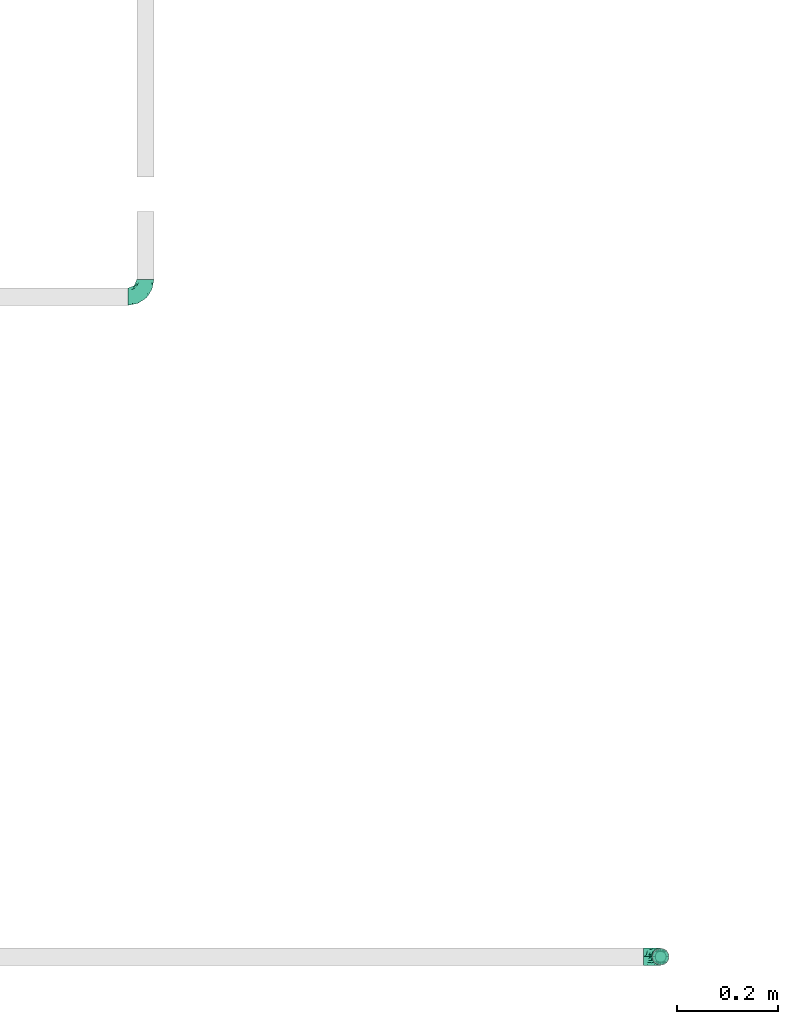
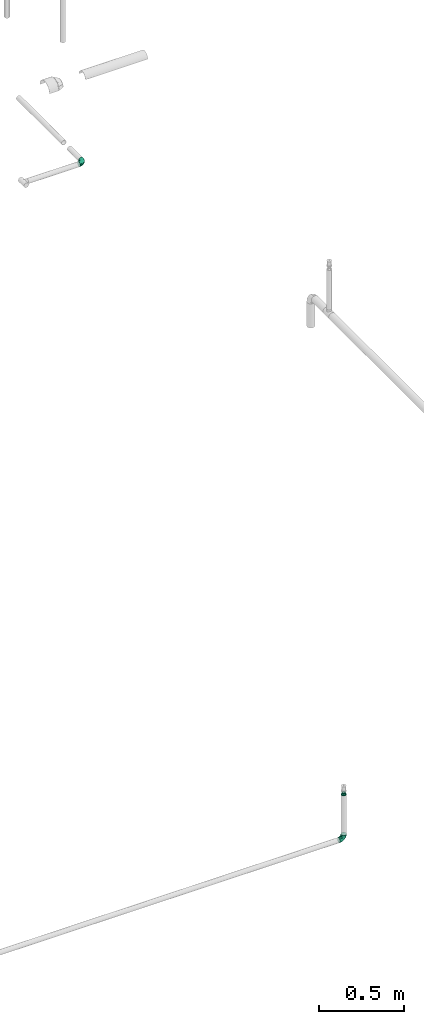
# One storey, part 37 of 63: 3 flow fittings.
"""IFC2X3 building model written with IfcOpenShell, lengths in millimetres."""

import ifcopenshell
import ifcopenshell.guid

model = None  # the IFC model being written
_history = None  # IfcOwnerHistory: only IFC2X3 demands one
_inside = {}  # id of a spatial element -> (the spatial element, [elements in it])
_under = {}  # id of a project, library or spatial element -> (it, [spatial elements below it])
_declared = {}  # id of a project -> (the project, [libraries it declares])
_typed = {}  # id of a type object -> (the type object, [elements of that type])
_made_of = {}  # id of a material, layer set ... -> (it, [elements and type objects made of it])


def new_model(schema):
    """Start an empty IFC model of exactly this schema.

    Asked for "IFC4X3", IfcOpenShell would pick the latest addendum, in which some entities
    have other attributes; the version numbers below select the first issue.
    IFC2X3 requires an IfcOwnerHistory on every rooted entity: one is made here for all.
    """
    global model, _history
    if schema == "IFC4X3":
        model = ifcopenshell.file(schema_version=(4, 3, 0, 0))
    else:
        model = ifcopenshell.file(schema=schema)
    _inside.clear()
    _under.clear()
    _declared.clear()
    _typed.clear()
    _made_of.clear()
    _history = None
    if model.schema == "IFC2X3":
        org = make("IfcOrganization", Name="unknown")
        user = make(
            "IfcPersonAndOrganization",
            ThePerson=make("IfcPerson", FamilyName="unknown"),
            TheOrganization=org,
        )
        app = make(
            "IfcApplication",
            ApplicationDeveloper=org,
            Version="unknown",
            ApplicationFullName="unknown",
            ApplicationIdentifier="unknown",
        )
        _history = make(
            "IfcOwnerHistory",
            OwningUser=user,
            OwningApplication=app,
            ChangeAction="ADDED",
            CreationDate=0,
        )
    return model


def make(cls, **values):
    """One entity of the class cls with the attributes given. An attribute that is None is left unset."""
    return model.create_entity(
        cls, **{name: value for name, value in values.items() if value is not None}
    )


def entity(cls, *values):
    """Any entity or typed value of the class cls, its attributes in the order of the schema. None: left unset."""
    e = model.create_entity(cls)
    for i, value in enumerate(values):
        if value is not None:
            e[i] = value
    return e


def rooted(cls, **values):
    """An entity with a GlobalId (a new one), such as an element, a storey or a relation."""
    return make(cls, GlobalId=ifcopenshell.guid.new(), OwnerHistory=_history, **values)


def si_unit(unit_type, name, prefix=None):
    """IfcSIUnit, for example si_unit("LENGTHUNIT", "METRE", prefix="MILLI")."""
    return make("IfcSIUnit", UnitType=unit_type, Prefix=prefix, Name=name)


def converted_unit(unit_type, name, factor, base, dimensions=None, offset=None):
    """IfcConversionBasedUnit, such as the inch: factor (a typed value) times the base unit."""
    return make(
        "IfcConversionBasedUnit"
        if offset is None
        else "IfcConversionBasedUnitWithOffset",
        ConversionOffset=offset,
        Dimensions=None
        if dimensions is None
        else entity("IfcDimensionalExponents", *dimensions),
        UnitType=unit_type,
        Name=name,
        ConversionFactor=make(
            "IfcMeasureWithUnit", ValueComponent=factor, UnitComponent=base
        ),
    )


def derived_unit(unit_type, elements):
    """IfcDerivedUnit: a product of units, each with its exponent."""
    return make(
        "IfcDerivedUnit",
        Elements=[
            make("IfcDerivedUnitElement", Unit=unit, Exponent=power)
            for unit, power in elements
        ],
        UnitType=unit_type,
    )


def assignment(units):
    """IfcUnitAssignment: the units of a project."""
    return None if units is None else make("IfcUnitAssignment", Units=units)


def point(xyz):
    """IfcCartesianPoint."""
    return None if xyz is None else make("IfcCartesianPoint", Coordinates=xyz)


def direction(xyz):
    """IfcDirection."""
    return None if xyz is None else make("IfcDirection", DirectionRatios=xyz)


def frame(location, z_axis=None, x_axis=None):
    """IfcAxis2Placement3D, a coordinate frame: its origin and axes. An axis left out is left unset."""
    return make(
        "IfcAxis2Placement3D",
        Location=point(location),
        Axis=direction(z_axis),
        RefDirection=direction(x_axis),
    )


def origin_with_axes():
    """The frame at (0, 0, 0) with the z axis (0, 0, 1) and the x axis (1, 0, 0) written out."""
    return frame((0.0, 0.0, 0.0), z_axis=(0.0, 0.0, 1.0), x_axis=(1.0, 0.0, 0.0))


def place(relative_to, where):
    """IfcLocalPlacement: puts the frame where relative to a parent placement (None: the world)."""
    return make(
        "IfcLocalPlacement", PlacementRelTo=relative_to, RelativePlacement=where
    )


def context(
    kind, dimensions, precision=None, world=None, true_north=None, identifier=None
):
    """IfcGeometricRepresentationContext, for example the 3D "Model" context."""
    return make(
        "IfcGeometricRepresentationContext",
        ContextIdentifier=identifier,
        ContextType=kind,
        CoordinateSpaceDimension=dimensions,
        Precision=precision,
        WorldCoordinateSystem=world,
        TrueNorth=true_north,
    )


def subcontext(parent, identifier, kind, view, scale=None):
    """IfcGeometricRepresentationSubContext, for example "Body" below "Model"."""
    return make(
        "IfcGeometricRepresentationSubContext",
        ContextIdentifier=identifier,
        ContextType=kind,
        ParentContext=parent,
        TargetScale=scale,
        TargetView=view,
    )


def project(units=None, contexts=None):
    """IfcProject with its units and contexts."""
    return rooted(
        "IfcProject",
        Name="project",
        RepresentationContexts=contexts,
        UnitsInContext=assignment(units),
    )


def spatial(cls, under=None, at=None, **own):
    """A site, building, storey or space (cls), placed at a placement, below another one or the project."""
    s = rooted(cls, ObjectPlacement=at, **own)
    if under is not None:
        _under.setdefault(under.id(), (under, []))[1].append(s)
    return s


def faces_of(points, faces, orient=None, outer=None):
    """IfcFace entities. A face is a list of loops; a loop is a list of indices into points, from 0.

    orient and outer hold one flag for each loop. By default every Orientation is true, the
    first loop of a face is its IfcFaceOuterBound and the others are IfcFaceBound.
    """
    made = []
    for i, loops in enumerate(faces):
        bounds = []
        for j, loop in enumerate(loops):
            is_outer = j == 0 if outer is None else outer[i][j]
            bounds.append(
                make(
                    "IfcFaceOuterBound" if is_outer else "IfcFaceBound",
                    Bound=make("IfcPolyLoop", Polygon=[points[k] for k in loop]),
                    Orientation=True if orient is None else orient[i][j],
                )
            )
        made.append(make("IfcFace", Bounds=bounds))
    return made


def open_shell(faces, orient=None, outer=None):
    """The faces of one IfcOpenShell. surface_model builds it on its shared points."""
    return ("IfcOpenShell", faces, orient, outer)


def surface_model(cls, points, shells):
    """IfcFaceBasedSurfaceModel or IfcShellBasedSurfaceModel (cls): surfaces that need not close."""
    shared = [point(p) for p in points]
    made = [make(c, CfsFaces=faces_of(shared, fs, o, b)) for c, fs, o, b in shells]
    if cls == "IfcFaceBasedSurfaceModel":
        return make(cls, FbsmFaces=made)
    return make(cls, SbsmBoundary=made)


def shape(context_of_items, identifier, shape_type, items):
    """IfcShapeRepresentation: the items that make up one representation, for example the "Body"."""
    return make(
        "IfcShapeRepresentation",
        ContextOfItems=context_of_items,
        RepresentationIdentifier=identifier,
        RepresentationType=shape_type,
        Items=items,
    )


def source(mapping_origin, context_of_items, identifier, shape_type, items):
    """IfcRepresentationMap: a shape defined once, which mapped items show again and again."""
    return make(
        "IfcRepresentationMap",
        MappingOrigin=mapping_origin,
        MappedRepresentation=shape(context_of_items, identifier, shape_type, items),
    )


def transform(
    local_origin,
    x_axis=None,
    y_axis=None,
    z_axis=None,
    scale=None,
    scale2=None,
    scale3=None,
    uniform=True,
):
    """IfcCartesianTransformationOperator3D, or its non-uniform kind. x_axis, y_axis, z_axis: its Axis1, 2, 3."""
    if uniform:
        return make(
            "IfcCartesianTransformationOperator3D",
            Axis1=direction(x_axis),
            Axis2=direction(y_axis),
            LocalOrigin=point(local_origin),
            Scale=scale,
            Axis3=direction(z_axis),
        )
    return make(
        "IfcCartesianTransformationOperator3DnonUniform",
        Axis1=direction(x_axis),
        Axis2=direction(y_axis),
        LocalOrigin=point(local_origin),
        Scale=scale,
        Axis3=direction(z_axis),
        Scale2=scale2,
        Scale3=scale3,
    )


def mapped(mapping_source, mapping_target):
    """IfcMappedItem: shows the shape of a source again, moved by a transform."""
    return make(
        "IfcMappedItem", MappingSource=mapping_source, MappingTarget=mapping_target
    )


def made_of(thing, what):
    """Note that an element or type object is made of a material, layer set ...; save() writes the relation."""
    if what is not None:
        _made_of.setdefault(what.id(), (what, []))[1].append(thing)
    return thing


def type_object(cls, material=None, **own):
    """A type object (cls), such as IfcWallType, which elements share."""
    return made_of(rooted(cls, **own), material)


def element(
    cls,
    number,
    at=None,
    inside=None,
    cuts=None,
    type_object=None,
    material=None,
    context=None,
    identifier="Body",
    shape_type=None,
    held_by="IfcProductDefinitionShape",
    body=None,
    shapes=None,
    **own,
):
    """One element of the class cls, such as IfcWall. Its Tag is "e" and its number.

    at: its placement. inside: the storey or other place that contains it. cuts: it is an
    opening in that element (IfcRelVoidsElement). A single representation is given by context,
    identifier, shape_type and body (its items); several are given by shapes. held_by: the class
    of the entity that holds the representations. save() writes the other relations.
    """
    e = rooted(cls, Tag="e%d" % number, ObjectPlacement=at, **own)
    if body is not None:
        shapes = [shape(context, identifier, shape_type, body)]
    if shapes is not None:
        e.Representation = make(held_by, Representations=shapes)
    if inside is not None:
        _inside.setdefault(inside.id(), (inside, []))[1].append(e)
    if cuts is not None:
        rooted(
            "IfcRelVoidsElement", RelatingBuildingElement=cuts, RelatedOpeningElement=e
        )
    if type_object is not None:
        _typed.setdefault(type_object.id(), (type_object, []))[1].append(e)
    return made_of(e, material)


def aggregate(whole, parts):
    """IfcRelAggregates: a whole, such as a stair, and the parts it consists of."""
    return rooted("IfcRelAggregates", RelatingObject=whole, RelatedObjects=parts)


def save(model, path):
    """Write the relations noted so far, then the file.

    IfcRelAggregates (storeys below a building ...), IfcRelContainedInSpatialStructure (elements
    in a storey), IfcRelDefinesByType, IfcRelAssociatesMaterial and IfcRelDeclares: one each for
    every whole, place, type object, material and project.
    """
    for whole, parts in _under.values():
        aggregate(whole, parts)
    for where, things in _inside.values():
        rooted(
            "IfcRelContainedInSpatialStructure",
            RelatedElements=things,
            RelatingStructure=where,
        )
    for kind, things in _typed.values():
        rooted("IfcRelDefinesByType", RelatedObjects=things, RelatingType=kind)
    for what, things in _made_of.values():
        rooted("IfcRelAssociatesMaterial", RelatedObjects=things, RelatingMaterial=what)
    for by, libraries in _declared.values():
        rooted("IfcRelDeclares", RelatingContext=by, RelatedDefinitions=libraries)
    model.write(path)


model = new_model("IFC2X3")

# Units and contexts
model_context = context("Model", 3, precision=0.01, world=frame((0.0, 4.29681676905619e-09, 0.0)), true_north=direction((4.01073788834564e-13, 1.0)))
plan_context = context("Plan", 3, precision=0.01, world=frame((0.0, 4.29681676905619e-09, 0.0)), true_north=direction((4.01073788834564e-13, 1.0)))
body_context = subcontext(model_context, "Body", "Model", "MODEL_VIEW")
ifc_project = project(units=[converted_unit("PLANEANGLEUNIT", "DEGREE", entity("IfcPositiveLengthMeasure", 0.0174532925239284), si_unit("PLANEANGLEUNIT", "RADIAN"), dimensions=[0, 0, 0, 0, 0, 0, 0]), si_unit("AREAUNIT", "SQUARE_METRE"), si_unit("LENGTHUNIT", "METRE", prefix="MILLI"), si_unit("MASSUNIT", "GRAM", prefix="KILO"), si_unit("POWERUNIT", "WATT"), si_unit("PRESSUREUNIT", "PASCAL", prefix="KILO"), si_unit("FORCEUNIT", "NEWTON", prefix="KILO"), si_unit("ELECTRICVOLTAGEUNIT", "VOLT"), si_unit("ELECTRICCURRENTUNIT", "AMPERE"), si_unit("THERMODYNAMICTEMPERATUREUNIT", "DEGREE_CELSIUS"), si_unit("TIMEUNIT", "SECOND"), si_unit("VOLUMEUNIT", "CUBIC_METRE"), derived_unit("LINEARVELOCITYUNIT", [(si_unit("LENGTHUNIT", "METRE"), 1), (si_unit("TIMEUNIT", "SECOND"), -1)]), derived_unit("VOLUMETRICFLOWRATEUNIT", [(si_unit("VOLUMEUNIT", "CUBIC_METRE"), 1), (si_unit("TIMEUNIT", "SECOND"), -1)]), derived_unit("THERMALTRANSMITTANCEUNIT", [(si_unit("POWERUNIT", "WATT"), 1), (si_unit("THERMODYNAMICTEMPERATUREUNIT", "KELVIN"), -1), (si_unit("AREAUNIT", "SQUARE_METRE"), -1)]), derived_unit("SOUNDPRESSUREUNIT", [(si_unit("PRESSUREUNIT", "PASCAL"), 1)])], contexts=[model_context, plan_context])

# Site, building, storey
site_placement = place(None, frame((0.0, -4.29681676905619e-09, 0.0), z_axis=(0.0, 0.0, 1.0), x_axis=(1.0, 0.0, 0.0)))
site = spatial("IfcSite", under=ifc_project, at=site_placement, CompositionType="ELEMENT")
building_placement = place(site_placement, frame((0.0, 4.29681676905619e-09, 0.0), z_axis=(0.0, 0.0, 1.0), x_axis=(1.0, 0.0, 0.0)))
building = spatial("IfcBuilding", under=site, at=building_placement, Name="mc-building", CompositionType="ELEMENT")
storey_placement = place(building_placement, frame((0.0, 0.0, 207370.0), z_axis=(0.0, 0.0, 1.0), x_axis=(1.0, 0.0, 0.0)))
storey = spatial("IfcBuildingStorey", under=building, at=storey_placement, Name="Nivå E", CompositionType="ELEMENT", Elevation=207370.0)

# Flow fittings
pipe_fitting_type_1 = type_object("IfcPipeFittingType", Name="magi_pipe_fe_reducer_centric_short_NOR", PredefinedType="TRANSITION")
shared_shape_1 = source(origin_with_axes(), body_context, "Body", "SurfaceModel", [
    surface_model("IfcShellBasedSurfaceModel", [(14.4, 5.35, -9.26647), (14.4, 0.0, -10.7), (14.4, 2.76936, -10.33541), (14.4, 10.33541, -2.76936), (14.4, 7.56604, -7.56604), (14.4, -10.33541, -2.76936), (14.4, 9.26647, -5.35), (14.4, 0.0, 10.7), (14.4, -5.35, -9.26647), (14.4, -2.76936, -10.33541), (14.4, -7.56604, -7.56604), (14.4, -9.26647, -5.35), (14.4, 10.7, 0.0), (14.4, 10.33541, 2.76936), (14.4, 9.26647, 5.35), (14.4, 7.56604, 7.56604), (14.4, 2.76936, 10.33541), (14.4, 5.35, 9.26647), (14.4, -10.33541, 2.76936), (14.4, -7.56604, 7.56604), (14.4, -9.26647, 5.35), (14.4, -10.7, 0.0), (14.4, -2.76936, 10.33541), (14.4, -5.35, 9.26647), (12.4, 2.76936, 10.33541), (12.4, -10.33541, -2.76936), (12.4, 0.0, 10.7), (12.4, 5.35, 9.26647), (12.4, 7.56604, 7.56604), (12.4, 9.26647, 5.35), (12.4, 10.33541, 2.76936), (12.4, -10.33541, 2.76936), (12.4, -2.76936, 10.33541), (12.4, -7.56604, 7.56604), (12.4, -5.35, 9.26647), (12.4, -9.26647, 5.35), (12.4, -10.7, 0.0), (12.4, 10.33541, -2.76936), (12.4, 5.35, -9.26647), (12.4, 9.26647, -5.35), (12.4, 7.56604, -7.56604), (12.4, 2.76936, -10.33541), (12.4, -9.26647, -5.35), (12.4, -5.35, -9.26647), (12.4, -7.56604, -7.56604), (12.4, 0.0, -10.7), (12.4, -2.76936, -10.33541), (12.4, 10.7, 0.0), (-2.0, 11.9501, 11.9501), (-2.0, 0.0, 16.9), (-2.0, 4.37404, 16.32415), (-2.0, 8.45, 14.63583), (-2.0, 14.63583, 8.45), (-2.0, 16.32415, 4.37404), (-2.0, -16.32415, 4.37404), (-2.0, -8.45, 14.63583), (-2.0, -14.63583, 8.45), (-2.0, -11.9501, 11.9501), (-2.0, -4.37404, 16.32415), (-2.0, -16.32415, -4.37404), (-2.0, -16.9, 0.0), (-2.0, -8.45, -14.63583), (-2.0, 16.32415, -4.37404), (-2.0, 11.9501, -11.9501), (-2.0, 14.63583, -8.45), (-2.0, 8.45, -14.63583), (-2.0, 4.37404, -16.32415), (-2.0, 0.0, -16.9), (-2.0, -11.9501, -11.9501), (-2.0, -14.63583, -8.45), (-2.0, -4.37404, -16.32415), (-2.0, 16.9, 0.0), (0.0, 4.37404, -16.32415), (0.0, 8.45, -14.63583), (0.0, 11.9501, -11.9501), (0.0, 0.0, -16.9), (0.0, 16.32415, -4.37404), (0.0, 16.32415, 4.37404), (0.0, 14.63583, -8.45), (0.0, -8.45, -14.63583), (0.0, -4.37404, -16.32415), (0.0, -11.9501, -11.9501), (0.0, -16.32415, -4.37404), (0.0, -14.63583, -8.45), (0.0, -16.32415, 4.37404), (0.0, 16.9, 0.0), (0.0, 14.63583, 8.45), (0.0, 11.9501, 11.9501), (0.0, 4.37404, 16.32415), (0.0, 8.45, 14.63583), (0.0, 0.0, 16.9), (0.0, -14.63583, 8.45), (0.0, -16.9, 0.0), (0.0, -8.45, 14.63583), (0.0, -11.9501, 11.9501), (0.0, -4.37404, 16.32415), (12.4, 9.3625, -2.31662), (0.0, 14.42505, -5.97505), (0.0, 15.66253, -2.98753), (12.4, -6.6875, -6.94985), (0.0, -13.18758, -8.96258), (0.0, 2.98753, -15.66253), (12.4, 0.0, -9.26647), (12.4, 6.6875, -6.94985), (0.0, 8.96258, -13.18758), (12.4, -9.3625, -2.31662), (0.0, -15.66253, -2.98753), (0.0, -14.42505, -5.97505), (0.0, 5.97505, -14.42505), (0.0, -2.98753, -15.66253), (0.0, -8.96258, -13.18758), (0.0, 13.18758, -8.96258), (12.4, 8.025, -4.63324), (12.4, -2.675, -9.26647), (12.4, 2.675, -9.26647), (0.0, -5.97505, -14.42505), (12.4, -8.025, -4.63324), (12.4, -9.3625, 2.31662), (0.0, -14.42505, 5.97505), (0.0, -15.66253, 2.98753), (12.4, 6.6875, 6.94985), (0.0, 13.18758, 8.96258), (0.0, -2.98753, 15.66253), (12.4, 0.0, 9.26647), (12.4, -6.6875, 6.94985), (0.0, -8.96258, 13.18758), (12.4, 9.3625, 2.31662), (0.0, 15.66253, 2.98753), (0.0, 14.42505, 5.97505), (0.0, -5.97505, 14.42505), (0.0, 2.98753, 15.66253), (0.0, 8.96258, 13.18758), (0.0, -13.18758, 8.96258), (12.4, -8.025, 4.63324), (12.4, 2.675, 9.26647), (12.4, -2.675, 9.26647), (0.0, 5.97505, 14.42505), (12.4, 8.025, 4.63324)], [open_shell([[[0, 1, 2]], [[3, 0, 4]], [[5, 0, 3]], [[3, 4, 6]], [[7, 5, 3]], [[1, 8, 9]], [[1, 0, 8]], [[10, 5, 11]], [[5, 10, 8]], [[0, 5, 8]], [[3, 12, 13]], [[13, 14, 15]], [[13, 15, 16]], [[7, 3, 16]], [[16, 15, 17]], [[7, 18, 5]], [[18, 19, 20]], [[21, 5, 18]], [[19, 22, 23]], [[22, 19, 18]], [[7, 22, 18]], [[13, 16, 3]], [[24, 25, 26]], [[27, 25, 24]], [[28, 29, 30]], [[28, 25, 27]], [[31, 26, 25]], [[32, 33, 34]], [[33, 32, 31]], [[33, 31, 35]], [[32, 26, 31]], [[31, 25, 36]], [[30, 37, 28]], [[25, 28, 37]], [[38, 37, 39]], [[37, 38, 25]], [[38, 39, 40]], [[41, 25, 38]], [[42, 43, 44]], [[43, 42, 25]], [[43, 45, 46]], [[43, 25, 41]], [[41, 45, 43]], [[37, 30, 47]], [[25, 5, 36]], [[42, 11, 25]], [[8, 44, 43]], [[42, 44, 10]], [[9, 43, 46]], [[25, 11, 5]], [[5, 21, 36]], [[9, 8, 43]], [[10, 44, 8]], [[10, 11, 42]], [[1, 9, 46]], [[46, 45, 1]], [[41, 2, 45]], [[38, 0, 41]], [[6, 40, 39]], [[38, 40, 4]], [[3, 39, 37]], [[38, 4, 0]], [[0, 2, 41]], [[12, 3, 37]], [[6, 39, 3]], [[6, 4, 40]], [[47, 12, 37]], [[45, 2, 1]], [[30, 13, 47]], [[29, 14, 30]], [[17, 28, 27]], [[29, 28, 15]], [[16, 27, 24]], [[30, 14, 13]], [[13, 12, 47]], [[16, 17, 27]], [[15, 28, 17]], [[15, 14, 29]], [[7, 16, 24]], [[24, 26, 7]], [[32, 22, 26]], [[34, 23, 32]], [[20, 33, 35]], [[34, 33, 19]], [[18, 35, 31]], [[34, 19, 23]], [[23, 22, 32]], [[21, 18, 31]], [[20, 35, 18]], [[20, 19, 33]], [[36, 21, 31]], [[26, 22, 7]], [[48, 49, 50]], [[48, 50, 51]], [[48, 52, 53]], [[48, 53, 49]], [[49, 53, 54]], [[55, 56, 57]], [[55, 58, 49]], [[56, 55, 49]], [[49, 54, 56]], [[54, 59, 60]], [[54, 53, 61]], [[53, 62, 63]], [[63, 62, 64]], [[63, 65, 66]], [[61, 53, 63]], [[67, 63, 66]], [[59, 68, 69]], [[68, 59, 61]], [[61, 67, 70]], [[59, 54, 61]], [[63, 67, 61]], [[53, 71, 62]], [[72, 73, 74]], [[75, 72, 74]], [[74, 76, 77]], [[76, 74, 78]], [[74, 77, 79]], [[75, 79, 80]], [[75, 74, 79]], [[81, 82, 83]], [[82, 81, 79]], [[79, 84, 82]], [[77, 76, 85]], [[77, 86, 87]], [[77, 87, 88]], [[88, 84, 79]], [[88, 87, 89]], [[84, 88, 90]], [[90, 91, 84]], [[92, 82, 84]], [[91, 93, 94]], [[91, 90, 93]], [[93, 90, 95]], [[79, 77, 88]], [[59, 82, 60]], [[69, 83, 59]], [[79, 68, 61]], [[69, 68, 81]], [[80, 61, 70]], [[59, 83, 82]], [[82, 92, 60]], [[80, 79, 61]], [[81, 68, 79]], [[81, 83, 69]], [[75, 80, 70]], [[70, 67, 75]], [[66, 72, 67]], [[65, 73, 66]], [[78, 63, 64]], [[65, 63, 74]], [[76, 64, 62]], [[65, 74, 73]], [[73, 72, 66]], [[85, 76, 62]], [[78, 64, 76]], [[78, 74, 63]], [[71, 85, 62]], [[67, 72, 75]], [[53, 77, 71]], [[52, 86, 53]], [[89, 48, 51]], [[52, 48, 87]], [[88, 51, 50]], [[53, 86, 77]], [[77, 85, 71]], [[88, 89, 51]], [[87, 48, 89]], [[87, 86, 52]], [[90, 88, 50]], [[50, 49, 90]], [[58, 95, 49]], [[55, 93, 58]], [[91, 57, 56]], [[55, 57, 94]], [[84, 56, 54]], [[55, 94, 93]], [[93, 95, 58]], [[92, 84, 54]], [[91, 56, 84]], [[91, 94, 57]], [[60, 92, 54]], [[49, 95, 90]], [[27, 34, 47]], [[47, 34, 43]], [[43, 38, 47]], [[43, 34, 36]], [[90, 87, 94]], [[92, 94, 87]], [[87, 74, 92]], [[75, 92, 74]], [[81, 92, 75]], [[74, 87, 85]], [[96, 97, 98]], [[81, 99, 100]], [[101, 102, 75]], [[98, 85, 47]], [[74, 103, 104]], [[104, 103, 38]], [[105, 106, 107]], [[38, 108, 104]], [[102, 109, 75]], [[110, 99, 81]], [[47, 96, 98]], [[103, 111, 112]], [[109, 102, 113]], [[36, 92, 106]], [[102, 101, 114]], [[110, 115, 43]], [[96, 112, 97]], [[107, 116, 105]], [[36, 106, 105]], [[113, 115, 109]], [[43, 115, 113]], [[116, 107, 100]], [[108, 38, 114]], [[111, 103, 74]], [[111, 97, 112]], [[99, 110, 43]], [[116, 100, 99]], [[101, 108, 114]], [[117, 118, 119]], [[87, 120, 121]], [[122, 123, 90]], [[119, 92, 36]], [[94, 124, 125]], [[125, 124, 34]], [[126, 127, 128]], [[34, 129, 125]], [[123, 130, 90]], [[131, 120, 87]], [[36, 117, 119]], [[124, 132, 133]], [[130, 123, 134]], [[47, 85, 127]], [[123, 122, 135]], [[131, 136, 27]], [[117, 133, 118]], [[128, 137, 126]], [[47, 127, 126]], [[134, 136, 130]], [[27, 136, 134]], [[137, 128, 121]], [[129, 34, 135]], [[132, 124, 94]], [[132, 118, 133]], [[120, 131, 27]], [[137, 121, 120]], [[122, 129, 135]]])]),
])
flow_fitting_placement = place(storey_placement, frame((726016.69316, 434695.91689, 3018.36794), z_axis=(0.0, -1.0, 0.0), x_axis=(0.0, 0.0, 1.0)))
element("IfcFlowFitting", 1, at=flow_fitting_placement, inside=storey, type_object=pipe_fitting_type_1, Name="magi_pipe_fe_reducer_centric_short_NOR", context=body_context, shape_type="MappedRepresentation", body=[
    mapped(shared_shape_1, transform((0.0, 0.0, 0.0), scale=1.0)),
])
pipe_fitting_type_2 = type_object("IfcPipeFittingType", Name="magi_pipe_fe_elbow_short_001", PredefinedType="BEND")
shared_shape_2 = source(origin_with_axes(), body_context, "Body", "SurfaceModel", [
    surface_model("IfcShellBasedSurfaceModel", [(-33.8, 8.45, -14.63583), (-33.8, 4.37404, -16.32415), (-33.8, 11.9501, -11.9501), (-33.8, -11.9501, -11.9501), (-33.8, -14.63583, -8.45), (-33.8, -8.45, -14.63583), (-33.8, 0.0, -16.9), (-33.8, -4.37404, -16.32415), (-33.8, -4.37404, 16.32415), (-33.8, 0.0, 16.9), (-33.8, -8.45, 14.63583), (-33.8, 16.32415, -4.37404), (-33.8, 14.63583, -8.45), (-33.8, -16.32415, -4.37404), (-33.8, -16.9, 0.0), (-33.8, -16.32415, 4.37404), (-33.8, 11.9501, 11.9501), (-33.8, 14.63583, 8.45), (-33.8, 16.32415, 4.37404), (-33.8, 4.37404, 16.32415), (-33.8, 8.45, 14.63583), (-33.8, -14.63583, 8.45), (-33.8, -11.9501, 11.9501), (-33.8, 16.9, 0.0), (-11.9501, 33.8, -11.9501), (0.0, 33.8, -16.9), (-4.37404, 33.8, -16.32415), (-8.45, 33.8, -14.63583), (-14.63583, 33.8, -8.45), (-16.32415, 33.8, -4.37404), (14.63583, 33.8, -8.45), (8.45, 33.8, 14.63583), (16.32415, 33.8, -4.37404), (8.45, 33.8, -14.63583), (11.9501, 33.8, -11.9501), (4.37404, 33.8, -16.32415), (16.32415, 33.8, 4.37404), (16.9, 33.8, 0.0), (-11.9501, 33.8, 11.9501), (-16.32415, 33.8, 4.37404), (-14.63583, 33.8, 8.45), (-8.45, 33.8, 14.63583), (-4.37404, 33.8, 16.32415), (11.9501, 33.8, 11.9501), (14.63583, 33.8, 8.45), (0.0, 33.8, 16.9), (4.37404, 33.8, 16.32415), (-16.9, 33.8, 0.0), (-24.79389, -13.12945, 9.48721), (-22.19287, -9.75018, 12.59315), (-24.09897, -14.97035, 0.0), (-14.93934, -10.76256, 8.5297), (-22.46095, -14.75051, 5.27077), (14.75051, 22.46094, 5.27077), (11.9251, 13.23888, 4.33236), (13.04069, 14.39795, 0.0), (7.71387, 13.68847, 11.55891), (9.75018, 22.19287, 12.59315), (4.10169, 13.0571, 14.04018), (-24.84007, -6.39063, 15.2048), (-25.81779, -2.23879, 16.61097), (-23.66549, 2.59054, 16.87119), (-26.50418, 14.06512, 11.08152), (-24.21253, 17.66365, 7.72657), (-29.58514, 15.86957, 7.00283), (-6.17382, -7.5455, 0.0), (-13.23888, -11.9251, 4.33236), (-14.39795, -13.04069, 0.0), (-17.81434, 18.87373, 11.97104), (-6.30846, 29.15138, 15.82987), (-2.31622, 25.28002, 16.85849), (-29.23923, 10.23435, 13.77053), (-1.45439, -2.85688, 7.61475), (-0.28326, 0.34872, 10.09509), (-5.74484, -4.04709, 10.4122), (-4.41137, 11.31918, 16.59407), (-8.39727, 3.10034, 15.7812), (-1.72649, 9.1306, 15.53089), (-17.39909, 24.75344, 7.64977), (-26.19233, 20.0512, 0.0), (-28.14518, 17.29657, 4.25857), (-26.05147, 6.6281, 15.96447), (-5.87354, 16.61944, 16.86968), (-12.51807, 12.51807, 16.48937), (-10.06312, 7.38516, 16.81295), (-3.01882, 3.01882, 13.81718), (-13.0571, -4.10169, 14.04018), (-16.82553, -0.15166, 16.38038), (10.76256, 14.93934, 8.5297), (13.12945, 24.79389, 9.48721), (6.39063, 24.84007, 15.2048), (2.23879, 25.81779, 16.61097), (-13.68847, -7.71387, 11.55891), (14.97035, 24.09897, 0.0), (-7.30894, 22.89991, 16.09489), (-10.67958, 26.17414, 14.008), (-12.78295, 18.26924, 15.06066), (-13.88562, 22.45231, 12.93244), (-18.04944, 15.16501, 14.04434), (-23.11658, 20.08178, 4.02986), (-21.84989, 21.84989, 0.0), (-18.55817, 25.48277, 3.93065), (-13.95142, 26.94732, 11.03289), (-18.57098, 7.23906, 16.59756), (-16.58335, 4.14122, 16.89279), (-17.96666, 11.46709, 15.63151), (-9.84453, 17.54304, 16.18938), (0.15166, 16.82553, 16.38038), (-23.27207, 11.47201, 14.23154), (3.84842, 5.86994, 10.70473), (-8.0212, -7.54413, 7.93275), (1.00345, -2.19508, 4.57414), (5.13203, 3.01004, 5.90201), (5.24161, 1.7543, 2.53265), (8.70457, 7.04947, 3.99182), (-20.0512, 26.19233, 0.0), (8.4852, 8.76699, 7.09296), (-4.55488, -6.72064, 4.90681), (2.05031, -2.05031, 0.0), (7.5455, 6.17382, 0.0), (-26.75399, 2.1369, -16.845), (-14.61995, 24.73803, -11.27736), (-28.45274, -13.45335, -9.81895), (-26.00469, 6.63555, -15.96645), (-23.06726, 20.04573, -4.26202), (-13.80647, -4.26506, -14.17873), (-14.67501, -0.21081, -16.07388), (-6.7902, -0.2828, -13.8478), (-24.53586, 11.08096, -14.13417), (-26.72048, 14.00837, -11.05776), (10.0967, 24.44989, -12.75976), (5.83237, 21.40218, -15.03047), (6.66249, 28.54238, -15.38093), (-20.38182, 15.48705, -12.74596), (12.53268, 21.23441, -9.15363), (12.54494, 15.67504, -5.54878), (9.7522, 12.89279, -8.66343), (-15.65186, 19.64213, -13.01327), (-12.03528, 20.66498, -14.67665), (-15.61907, 15.61906, -14.83879), (-25.56551, -15.26206, 0.0), (-24.65452, -15.12934, -5.50955), (13.45335, 28.45274, -9.81895), (15.12934, 24.65452, -5.50955), (-7.35442, -8.31014, -5.65563), (-15.67504, -12.54494, -5.54878), (-24.44989, -10.0967, -12.75976), (0.16522, 0.41303, -9.71728), (-5.70658, -5.33066, -8.89288), (-5.13869, -2.37198, -11.53565), (-21.23441, -12.53268, -9.15363), (0.71146, 7.93863, -14.09382), (0.21081, 14.67501, -16.07388), (3.49291, 14.42772, -14.76381), (-24.89911, -2.13088, -16.591), (-28.54238, -6.66249, -15.38093), (-18.44386, -7.71663, -13.26957), (2.13088, 24.89911, -16.591), (-28.64342, 17.44413, -2.89318), (1.70017, -1.28722, -5.09504), (-16.57067, 26.81947, -7.36596), (-17.69055, 27.4263, -3.76405), (-12.89279, -9.7522, -8.66343), (-5.96611, 5.96611, -15.95814), (-20.53709, 20.09345, -8.28985), (-2.1369, 26.75399, -16.845), (-6.89872, 24.58781, -16.02578), (-10.60739, 26.53157, -13.98044), (-21.40218, -5.83237, -15.03047), (2.93192, 5.89627, -11.55917), (6.89393, 12.61842, -11.82233), (5.58056, 5.95325, -8.79455), (-3.99512, 18.61798, -16.89635), (8.31014, 7.35442, -5.65563), (-9.1383, 9.86148, -16.89041), (-9.99983, 16.02119, -16.39699), (-16.68576, 9.78031, -16.34199), (-27.01915, 16.61158, -7.12979), (15.26206, 25.56551, 0.0), (-18.61798, 3.99512, -16.89635), (-19.37495, 27.82495, 0.0), (-12.61842, -6.89393, -11.82233), (-18.84705, 19.14018, -10.96545)], [open_shell([[[0, 1, 2]], [[3, 4, 5]], [[6, 7, 5]], [[8, 9, 10]], [[1, 6, 2]], [[11, 12, 2]], [[4, 2, 6]], [[2, 13, 10]], [[5, 4, 6]], [[2, 4, 13]], [[14, 15, 13]], [[11, 2, 16]], [[11, 17, 18]], [[11, 16, 17]], [[19, 20, 16]], [[16, 2, 10]], [[19, 16, 10]], [[21, 22, 15]], [[22, 13, 15]], [[22, 10, 13]], [[10, 9, 19]], [[11, 18, 23]], [[24, 25, 26]], [[24, 26, 27]], [[24, 28, 29]], [[25, 24, 30]], [[31, 32, 24]], [[33, 30, 34]], [[33, 35, 25]], [[25, 30, 33]], [[32, 30, 24]], [[32, 36, 37]], [[38, 24, 29]], [[39, 40, 29]], [[40, 38, 29]], [[38, 41, 42]], [[38, 31, 24]], [[31, 38, 42]], [[36, 43, 44]], [[36, 32, 43]], [[31, 45, 46]], [[32, 31, 43]], [[42, 45, 31]], [[39, 29, 47]], [[22, 48, 49]], [[15, 14, 50]], [[51, 48, 52]], [[53, 54, 55]], [[48, 22, 21]], [[15, 52, 21]], [[56, 57, 58]], [[49, 10, 22]], [[49, 59, 10]], [[9, 60, 61]], [[62, 63, 64]], [[65, 66, 67]], [[57, 43, 31]], [[62, 68, 63]], [[42, 69, 70]], [[20, 71, 16]], [[8, 60, 9]], [[72, 73, 74]], [[75, 76, 77]], [[16, 62, 17]], [[40, 39, 78]], [[79, 23, 80]], [[64, 18, 17]], [[9, 61, 19]], [[19, 81, 20]], [[82, 83, 84]], [[74, 85, 86]], [[59, 86, 87]], [[88, 89, 57]], [[90, 31, 46]], [[44, 53, 36]], [[46, 45, 91]], [[54, 53, 88]], [[44, 89, 53]], [[92, 86, 49]], [[89, 44, 43]], [[10, 59, 8]], [[53, 55, 93]], [[93, 36, 53]], [[66, 52, 67]], [[94, 82, 70]], [[95, 96, 94]], [[97, 98, 96]], [[79, 99, 100]], [[41, 38, 95]], [[101, 100, 99]], [[68, 78, 63]], [[42, 41, 69]], [[23, 18, 80]], [[95, 94, 69]], [[78, 101, 99]], [[38, 102, 95]], [[70, 45, 42]], [[97, 95, 102]], [[15, 50, 52]], [[90, 57, 31]], [[57, 90, 58]], [[81, 19, 61]], [[103, 104, 84]], [[105, 81, 103]], [[38, 40, 102]], [[106, 96, 83]], [[94, 106, 82]], [[91, 70, 107]], [[71, 62, 16]], [[62, 108, 98]], [[86, 59, 49]], [[67, 52, 50]], [[60, 59, 87]], [[92, 49, 51]], [[86, 85, 76]], [[91, 90, 46]], [[37, 36, 93]], [[107, 77, 58]], [[107, 58, 90]], [[58, 85, 109]], [[110, 74, 92]], [[72, 74, 110]], [[66, 51, 52]], [[72, 111, 112]], [[113, 114, 112]], [[56, 88, 57]], [[52, 48, 21]], [[49, 48, 51]], [[57, 89, 43]], [[53, 89, 88]], [[103, 81, 61]], [[71, 81, 108]], [[18, 64, 80]], [[63, 78, 99]], [[47, 115, 101]], [[101, 115, 100]], [[40, 78, 102]], [[68, 102, 78]], [[97, 96, 95]], [[105, 98, 108]], [[103, 84, 83]], [[107, 70, 82]], [[76, 84, 87]], [[82, 84, 75]], [[70, 91, 45]], [[90, 91, 107]], [[59, 60, 8]], [[61, 60, 87]], [[73, 85, 74]], [[109, 112, 116]], [[103, 61, 104]], [[105, 103, 83]], [[96, 105, 83]], [[81, 105, 108]], [[96, 98, 105]], [[62, 98, 68]], [[61, 87, 104]], [[87, 84, 104]], [[86, 76, 87]], [[77, 76, 85]], [[58, 77, 85]], [[75, 77, 107]], [[82, 75, 107]], [[76, 75, 84]], [[81, 71, 20]], [[62, 71, 108]], [[95, 69, 41]], [[70, 69, 94]], [[62, 64, 17]], [[80, 63, 99]], [[63, 80, 64]], [[80, 99, 79]], [[66, 65, 117]], [[110, 66, 117]], [[112, 114, 116]], [[118, 117, 65]], [[110, 92, 51]], [[112, 111, 113]], [[119, 55, 54]], [[74, 86, 92]], [[58, 109, 56]], [[116, 56, 109]], [[66, 110, 51]], [[72, 110, 117]], [[111, 72, 117]], [[73, 112, 109]], [[117, 118, 111]], [[113, 111, 118]], [[118, 119, 113]], [[114, 119, 54]], [[119, 114, 113]], [[116, 54, 88]], [[54, 116, 114]], [[116, 88, 56]], [[112, 73, 72]], [[85, 73, 109]], [[78, 39, 101]], [[47, 101, 39]], [[102, 68, 97]], [[97, 68, 98]], [[82, 106, 83]], [[94, 96, 106]], [[1, 120, 6]], [[28, 24, 121]], [[3, 122, 4]], [[0, 123, 1]], [[100, 124, 79]], [[125, 126, 127]], [[128, 2, 129]], [[130, 131, 132]], [[128, 129, 133]], [[134, 135, 136]], [[137, 138, 139]], [[128, 0, 2]], [[67, 140, 141]], [[134, 142, 143]], [[141, 13, 4]], [[144, 65, 145]], [[146, 3, 5]], [[147, 148, 149]], [[145, 141, 150]], [[151, 152, 153]], [[154, 7, 6]], [[5, 155, 146]], [[150, 146, 156]], [[155, 5, 7]], [[143, 135, 134]], [[35, 157, 25]], [[23, 79, 158]], [[148, 159, 144]], [[160, 161, 29]], [[145, 162, 144]], [[163, 152, 151]], [[29, 28, 160]], [[121, 164, 160]], [[33, 34, 130]], [[25, 165, 26]], [[26, 165, 166]], [[142, 34, 30]], [[24, 27, 167]], [[124, 161, 164]], [[157, 35, 132]], [[155, 154, 168]], [[123, 0, 128]], [[169, 170, 171]], [[172, 157, 152]], [[26, 166, 27]], [[132, 35, 33]], [[142, 130, 34]], [[168, 154, 126]], [[136, 135, 173]], [[133, 137, 139]], [[2, 12, 129]], [[170, 131, 130]], [[30, 32, 143]], [[172, 174, 175]], [[176, 123, 128]], [[158, 177, 11]], [[135, 55, 119]], [[167, 27, 166]], [[175, 166, 172]], [[137, 167, 138]], [[122, 141, 4]], [[140, 14, 13]], [[32, 37, 178]], [[170, 130, 134]], [[152, 157, 131]], [[165, 157, 172]], [[153, 170, 151]], [[152, 163, 174]], [[168, 125, 156]], [[122, 146, 150]], [[120, 154, 6]], [[179, 174, 126]], [[179, 126, 154]], [[126, 163, 127]], [[162, 145, 150]], [[140, 13, 141]], [[32, 178, 143]], [[55, 143, 178]], [[177, 129, 12]], [[128, 133, 139]], [[176, 128, 139]], [[120, 123, 179]], [[121, 160, 28]], [[161, 100, 180]], [[166, 175, 138]], [[121, 24, 167]], [[161, 47, 29]], [[79, 124, 158]], [[124, 164, 177]], [[161, 124, 100]], [[136, 171, 170]], [[127, 163, 151]], [[147, 171, 159]], [[148, 144, 162]], [[127, 151, 169]], [[127, 181, 125]], [[129, 177, 164]], [[12, 11, 177]], [[159, 65, 144]], [[67, 141, 145]], [[143, 55, 135]], [[135, 119, 173]], [[123, 120, 1]], [[154, 120, 179]], [[157, 165, 25]], [[166, 165, 172]], [[172, 152, 174]], [[176, 139, 175]], [[126, 174, 163]], [[176, 174, 179]], [[174, 176, 175]], [[123, 176, 179]], [[150, 181, 162]], [[127, 149, 181]], [[181, 148, 162]], [[159, 148, 147]], [[171, 136, 173]], [[170, 134, 136]], [[159, 171, 173]], [[171, 147, 169]], [[169, 147, 149]], [[151, 170, 169]], [[164, 182, 129]], [[182, 121, 137]], [[181, 149, 148]], [[169, 149, 127]], [[182, 137, 133]], [[167, 137, 121]], [[166, 138, 167]], [[175, 139, 138]], [[129, 182, 133]], [[121, 182, 164]], [[161, 160, 164]], [[47, 161, 180]], [[177, 158, 124]], [[23, 158, 11]], [[130, 132, 33]], [[157, 132, 131]], [[143, 142, 30]], [[130, 142, 134]], [[154, 155, 7]], [[146, 155, 168]], [[146, 122, 3]], [[141, 122, 150]], [[152, 131, 153]], [[159, 119, 118]], [[67, 145, 65]], [[170, 153, 131]], [[119, 159, 173]], [[159, 118, 65]], [[156, 125, 181]], [[126, 125, 168]], [[150, 156, 181]], [[168, 156, 146]]])]),
])
for number, where, z_axis, x_axis, name in (
    (2, (726016.69316, 434695.91689, 2700.0), (0.0, -1.0, 0.0), (1.0, 0.0, 0.0), "magi_pipe_fe_elbow_short_001"),
    (3, (725000.0, 435998.03458, 7130.0), (0.0, 0.0, 1.0), (1.0, 0.0, 0.0), "magi_pipe_fe_elbow_short_001"),
):
    element("IfcFlowFitting", number, at=place(storey_placement, frame(where, z_axis=z_axis, x_axis=x_axis)), inside=storey, type_object=pipe_fitting_type_2, Name=name, context=body_context, shape_type="MappedRepresentation", body=[
        mapped(shared_shape_2, transform((0.0, 0.0, 0.0), scale=1.0)),
    ])

save(model, "model.ifc")
